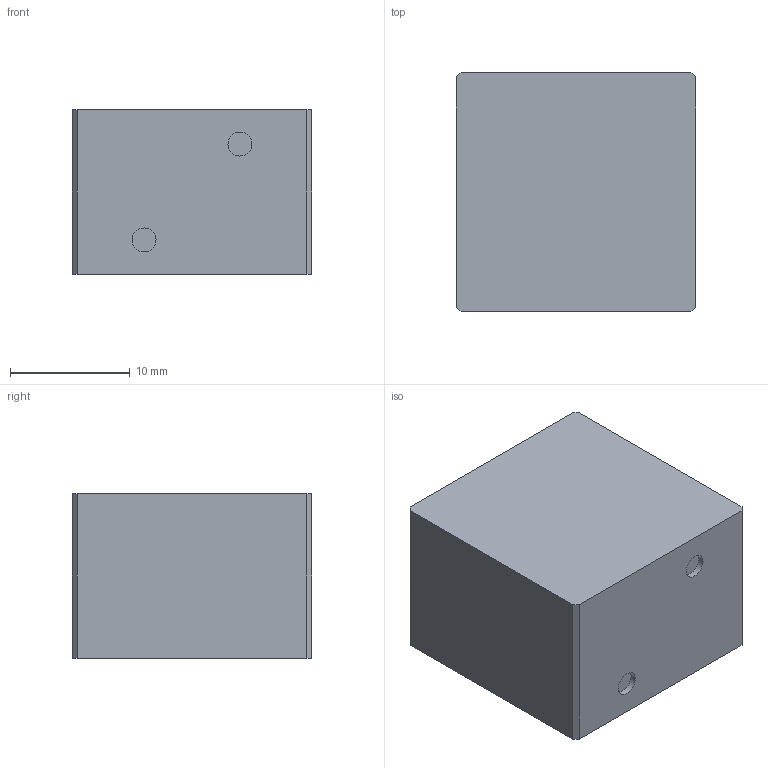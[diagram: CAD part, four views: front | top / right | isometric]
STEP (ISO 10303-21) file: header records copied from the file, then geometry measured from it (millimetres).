
FILE_DESCRIPTION(('Open CASCADE Model'),'2;1');
FILE_NAME('Open CASCADE Shape Model','2026-08-23T08:04:37',('Author'),( 'Open CASCADE'),'Open CASCADE STEP processor 7.9','Open CASCADE 7.9' ,'Unknown');
FILE_SCHEMA(('AUTOMOTIVE_DESIGN { 1 0 10303 214 1 1 1 1 }'));
Length unit declared in the file: millimetre
Products named in the file (2): =>[0:1:1:2]; COMPOUND
Assembly tree (1 placements, depth 2):
  =>[0:1:1:2]
    COMPOUND
Bounding box: 20 x 20 x 13.75 mm (x, y, z)
Volume: 5492.5 mm3; surface area: 1892.8 mm2
Topology: 1 solids, 1 shells, 14 faces, 30 edges, 20 vertices
Faces by surface type: plane 12, cylinder 2
Full cylindrical faces by diameter (mm): 2 x2
Entity records: 818 total; most frequent: CARTESIAN_POINT 138, DIRECTION 124, LINE 82, VECTOR 82, ORIENTED_EDGE 60, PCURVE 60, DEFINITIONAL_REPRESENTATION 60, EDGE_CURVE 30
